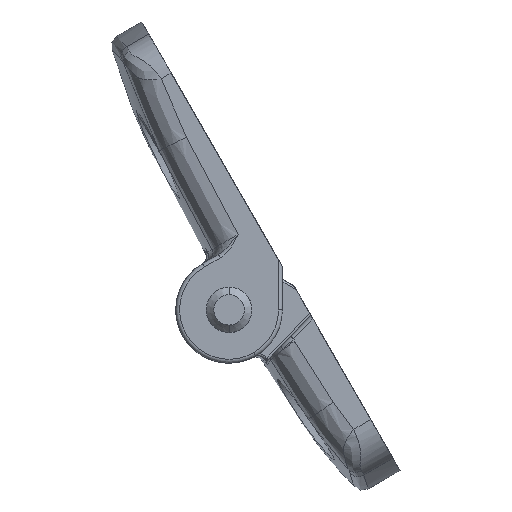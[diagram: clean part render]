
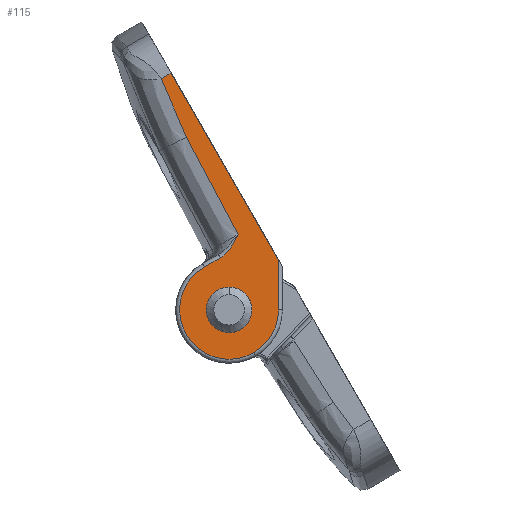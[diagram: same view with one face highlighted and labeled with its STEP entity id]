
A CAD part, left-side view. The second image highlights one B-rep face of the part: STEP entity #115.
In plain terms, the highlighted planar face has unit normal (-1, 0, 0) as drawn and (1, 0, 0) by its records, which use the part's own axes.
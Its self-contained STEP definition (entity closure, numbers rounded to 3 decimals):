
#115 = ADVANCED_FACE ( 'NONE', ( #2353, #2350 ), #7938, .F. ) ;
#406 = VERTEX_POINT ( 'NONE', #8293 ) ;
#1149 = CARTESIAN_POINT ( 'NONE',  ( 24., 2.916, -8. ) ) ;
#1195 = CARTESIAN_POINT ( 'NONE',  ( 24., 8.9, -3. ) ) ;
#1216 = CARTESIAN_POINT ( 'NONE',  ( 24., 6.486, -6.5 ) ) ;
#1269 = CARTESIAN_POINT ( 'NONE',  ( 24., 8.9, -6.5 ) ) ;
#1303 = CARTESIAN_POINT ( 'NONE',  ( 24., 0., -30.761 ) ) ;
#1350 = CARTESIAN_POINT ( 'NONE',  ( 24., 1.515, -30.761 ) ) ;
#1375 = CARTESIAN_POINT ( 'NONE',  ( 24., 8.9, 6.5 ) ) ;
#2350 = FACE_BOUND ( 'NONE', #12996, .T. ) ;
#2353 = FACE_OUTER_BOUND ( 'NONE', #13055, .T. ) ;
#2777 = CARTESIAN_POINT ( 'NONE',  ( 24., 3.271, 3.25 ) ) ;
#2819 = CARTESIAN_POINT ( 'NONE',  ( 24., 8.9, 3. ) ) ;
#4558 = CARTESIAN_POINT ( 'NONE',  ( 24., 8.9, 0. ) ) ;
#4559 = DIRECTION ( 'NONE',  ( -1., 0., 0. ) ) ;
#4560 = DIRECTION ( 'NONE',  ( 0., 0., 1. ) ) ;
#4562 = CARTESIAN_POINT ( 'NONE',  ( 24., 8.9, 0. ) ) ;
#4563 = DIRECTION ( 'NONE',  ( 1., 0., 0. ) ) ;
#4564 = DIRECTION ( 'NONE',  ( 0., 0., 1. ) ) ;
#5124 = VERTEX_POINT ( 'NONE', #8268 ) ;
#6726 = CARTESIAN_POINT ( 'NONE',  ( 24., 2.916, -8. ) ) ;
#6727 = CARTESIAN_POINT ( 'NONE',  ( 24., 3.188, -7.822 ) ) ;
#6731 = CARTESIAN_POINT ( 'NONE',  ( 24., 2.447, -22.454 ) ) ;
#6732 = CARTESIAN_POINT ( 'NONE',  ( 24., 2.746, -17.64 ) ) ;
#6736 = CARTESIAN_POINT ( 'NONE',  ( 24., 7.351, 10.317 ) ) ;
#6737 = CARTESIAN_POINT ( 'NONE',  ( 24., 2.902, -12.822 ) ) ;
#6738 = CARTESIAN_POINT ( 'NONE',  ( 24., 2.916, -8. ) ) ;
#6739 = CARTESIAN_POINT ( 'NONE',  ( 24., 7.9, -6.5 ) ) ;
#6740 = DIRECTION ( 'NONE',  ( 0., -0.5, -0.866 ) ) ;
#6741 = CARTESIAN_POINT ( 'NONE',  ( 24., 3.463, -7.642 ) ) ;
#6742 = CARTESIAN_POINT ( 'NONE',  ( 24., 4.02, -7.302 ) ) ;
#6743 = CARTESIAN_POINT ( 'NONE',  ( 24., 4.303, -7.141 ) ) ;
#6744 = CARTESIAN_POINT ( 'NONE',  ( 24., 4.89, -6.857 ) ) ;
#6745 = CARTESIAN_POINT ( 'NONE',  ( 24., 5.196, -6.733 ) ) ;
#6746 = CARTESIAN_POINT ( 'NONE',  ( 24., 5.831, -6.555 ) ) ;
#6747 = CARTESIAN_POINT ( 'NONE',  ( 24., 6.154, -6.5 ) ) ;
#6748 = CARTESIAN_POINT ( 'NONE',  ( 24., 6.486, -6.5 ) ) ;
#6749 = DIRECTION ( 'NONE',  ( 0., 1., 0. ) ) ;
#6750 = CARTESIAN_POINT ( 'NONE',  ( 24., 1.963, -28.011 ) ) ;
#6751 = CARTESIAN_POINT ( 'NONE',  ( 24., 8.9, 0. ) ) ;
#6752 = DIRECTION ( 'NONE',  ( 1., 0., 0. ) ) ;
#6753 = DIRECTION ( 'NONE',  ( 0., 0., 1. ) ) ;
#6754 = CARTESIAN_POINT ( 'NONE',  ( 24., 0., 1.134 ) ) ;
#6755 = DIRECTION ( 'NONE',  ( 0., 0., -1. ) ) ;
#6756 = CARTESIAN_POINT ( 'NONE',  ( 24., 15.9, -30.761 ) ) ;
#6757 = CARTESIAN_POINT ( 'NONE',  ( 24., 1.515, -30.761 ) ) ;
#6758 = DIRECTION ( 'NONE',  ( 0., -1., 0. ) ) ;
#6759 = CARTESIAN_POINT ( 'NONE',  ( 24., 2.274, -25.242 ) ) ;
#6760 = CARTESIAN_POINT ( 'NONE',  ( 24., 2.447, -22.454 ) ) ;
#6763 = CARTESIAN_POINT ( 'NONE',  ( 24., 8.9, 0. ) ) ;
#6764 = DIRECTION ( 'NONE',  ( -1., 0., 0. ) ) ;
#6765 = DIRECTION ( 'NONE',  ( 0., 0., 1. ) ) ;
#7678 = VERTEX_POINT ( 'NONE', #2777 ) ;
#7721 = VERTEX_POINT ( 'NONE', #2819 ) ;
#7938 = PLANE ( 'NONE',  #10305 ) ;
#7975 = DIRECTION ( 'NONE',  ( -1., 0., 0. ) ) ;
#7999 = DIRECTION ( 'NONE',  ( 0., 0., 1. ) ) ;
#8120 = CARTESIAN_POINT ( 'NONE',  ( 24., 7.9, 10. ) ) ;
#8268 = CARTESIAN_POINT ( 'NONE',  ( 24., 2.447, -22.454 ) ) ;
#8293 = CARTESIAN_POINT ( 'NONE',  ( 24., 0., -2.415 ) ) ;
#8658 = B_SPLINE_CURVE_WITH_KNOTS ( 'NONE', 3,
 ( #6731, #6732, #6737, #6738 ),
 .UNSPECIFIED., .F., .F.,
 ( 4, 4 ),
 ( 0., 0.014 ),
 .UNSPECIFIED. ) ;
#8659 = B_SPLINE_CURVE_WITH_KNOTS ( 'NONE', 3,
 ( #6726, #6727, #6741, #6742, #6743, #6744, #6745, #6746, #6747, #6748 ),
 .UNSPECIFIED., .F., .F.,
 ( 4, 2, 2, 2, 4 ),
 ( 0., 0.001, 0.002, 0.003, 0.004 ),
 .UNSPECIFIED. ) ;
#8660 = B_SPLINE_CURVE_WITH_KNOTS ( 'NONE', 3,
 ( #6757, #6750, #6759, #6760 ),
 .UNSPECIFIED., .F., .F.,
 ( 4, 4 ),
 ( 0.005, 0.013 ),
 .UNSPECIFIED. ) ;
#9907 = EDGE_CURVE ( 'NONE', #11005, #7721, #11294, .T. ) ;
#9909 = EDGE_CURVE ( 'NONE', #12054, #7678, #11297, .T. ) ;
#9976 = EDGE_CURVE ( 'NONE', #5124, #10959, #8658, .T. ) ;
#9977 = EDGE_CURVE ( 'NONE', #10959, #11026, #8659, .T. ) ;
#9978 = EDGE_CURVE ( 'NONE', #11026, #11079, #11383, .T. ) ;
#9979 = EDGE_CURVE ( 'NONE', #11079, #12054, #11385, .T. ) ;
#9980 = EDGE_CURVE ( 'NONE', #7678, #406, #11386, .T. ) ;
#9981 = EDGE_CURVE ( 'NONE', #406, #11113, #11387, .T. ) ;
#9982 = EDGE_CURVE ( 'NONE', #12012, #11113, #11389, .T. ) ;
#9983 = EDGE_CURVE ( 'NONE', #12012, #5124, #8660, .T. ) ;
#9984 = EDGE_CURVE ( 'NONE', #7721, #11005, #11384, .T. ) ;
#10305 = AXIS2_PLACEMENT_3D ( 'NONE', #8120, #7975, #7999 ) ;
#10959 = VERTEX_POINT ( 'NONE', #1149 ) ;
#11005 = VERTEX_POINT ( 'NONE', #1195 ) ;
#11026 = VERTEX_POINT ( 'NONE', #1216 ) ;
#11079 = VERTEX_POINT ( 'NONE', #1269 ) ;
#11113 = VERTEX_POINT ( 'NONE', #1303 ) ;
#11294 = CIRCLE ( 'NONE', #13490, 3. ) ;
#11297 = CIRCLE ( 'NONE', #13491, 6.5 ) ;
#11366 = VECTOR ( 'NONE', #6749, 1000. ) ;
#11383 = LINE ( 'NONE', #6739, #11366 ) ;
#11384 = CIRCLE ( 'NONE', #13511, 3. ) ;
#11385 = CIRCLE ( 'NONE', #13510, 6.5 ) ;
#11386 = LINE ( 'NONE', #6736, #11388 ) ;
#11387 = LINE ( 'NONE', #6754, #11390 ) ;
#11388 = VECTOR ( 'NONE', #6740, 1000. ) ;
#11389 = LINE ( 'NONE', #6756, #11392 ) ;
#11390 = VECTOR ( 'NONE', #6755, 1000. ) ;
#11392 = VECTOR ( 'NONE', #6758, 1000. ) ;
#12012 = VERTEX_POINT ( 'NONE', #1350 ) ;
#12054 = VERTEX_POINT ( 'NONE', #1375 ) ;
#12795 = ORIENTED_EDGE ( 'NONE', *, *, #9977, .T. ) ;
#12796 = ORIENTED_EDGE ( 'NONE', *, *, #9978, .T. ) ;
#12800 = ORIENTED_EDGE ( 'NONE', *, *, #9976, .T. ) ;
#12801 = ORIENTED_EDGE ( 'NONE', *, *, #9909, .T. ) ;
#12814 = ORIENTED_EDGE ( 'NONE', *, *, #9979, .T. ) ;
#12816 = ORIENTED_EDGE ( 'NONE', *, *, #9983, .T. ) ;
#12817 = ORIENTED_EDGE ( 'NONE', *, *, #9982, .F. ) ;
#12818 = ORIENTED_EDGE ( 'NONE', *, *, #9981, .T. ) ;
#12834 = ORIENTED_EDGE ( 'NONE', *, *, #9907, .T. ) ;
#12835 = ORIENTED_EDGE ( 'NONE', *, *, #9980, .T. ) ;
#12837 = ORIENTED_EDGE ( 'NONE', *, *, #9984, .T. ) ;
#12996 = EDGE_LOOP ( 'NONE', ( #12834, #12837 ) ) ;
#13055 = EDGE_LOOP ( 'NONE', ( #12800, #12795, #12796, #12814, #12801, #12835, #12818, #12817, #12816 ) ) ;
#13490 = AXIS2_PLACEMENT_3D ( 'NONE', #4558, #4559, #4560 ) ;
#13491 = AXIS2_PLACEMENT_3D ( 'NONE', #4562, #4563, #4564 ) ;
#13510 = AXIS2_PLACEMENT_3D ( 'NONE', #6751, #6752, #6753 ) ;
#13511 = AXIS2_PLACEMENT_3D ( 'NONE', #6763, #6764, #6765 ) ;
